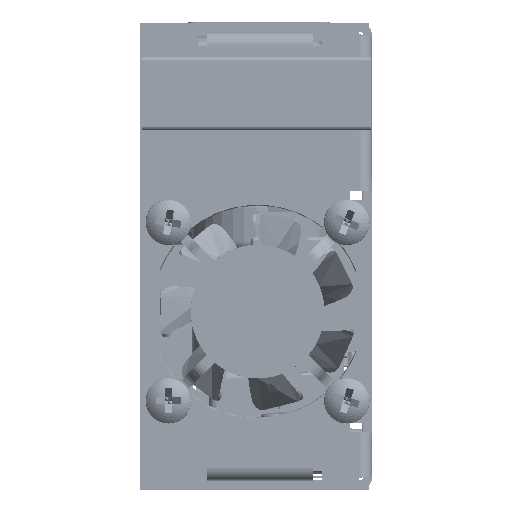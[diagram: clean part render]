
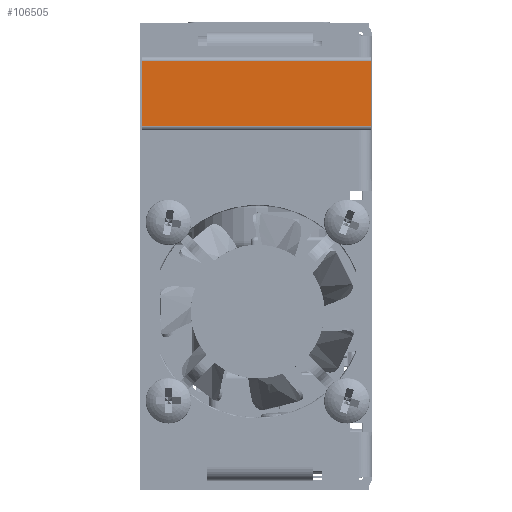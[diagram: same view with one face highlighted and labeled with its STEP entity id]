
A CAD part, left-side view. The second image highlights one B-rep face of the part: STEP entity #106505.
In plain terms, the highlighted planar face has unit normal (-1, 0, 0) as drawn and (0, 1, 0) by its records, which use the part's own axes.
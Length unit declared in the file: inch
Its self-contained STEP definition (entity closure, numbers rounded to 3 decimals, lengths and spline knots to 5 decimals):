
#24382 = EDGE_CURVE ( 'NONE', #153563, #152587, #189720, .T. ) ;
#35723 = EDGE_CURVE ( 'NONE', #153563, #179695, #111492, .T. ) ;
#39696 = CARTESIAN_POINT ( 'NONE',  ( -0.22854, 0.6811, -1.35976 ) ) ;
#47830 = VERTEX_POINT ( 'NONE', #152879 ) ;
#47842 = VECTOR ( 'NONE', #148438, 39.37008 ) ;
#55157 = ORIENTED_EDGE ( 'NONE', *, *, #24382, .F. ) ;
#56692 = FACE_OUTER_BOUND ( 'NONE', #79559, .T. ) ;
#68525 = CARTESIAN_POINT ( 'NONE',  ( -0.22854, 0.6811, -0.80906 ) ) ;
#74175 = VECTOR ( 'NONE', #146876, 39.37008 ) ;
#79559 = EDGE_LOOP ( 'NONE', ( #55157, #161596, #189450, #97637 ) ) ;
#86316 = CARTESIAN_POINT ( 'NONE',  ( -0.22854, 0.6811, -1.35976 ) ) ;
#97637 = ORIENTED_EDGE ( 'NONE', *, *, #127302, .F. ) ;
#101435 = CARTESIAN_POINT ( 'NONE',  ( -0.22854, 0.6811, 0.80906 ) ) ;
#101690 = DIRECTION ( 'NONE',  ( 0., 0., 1. ) ) ;
#106505 = ADVANCED_FACE ( 'NONE', ( #56692 ), #116416, .T. ) ;
#110669 = EDGE_CURVE ( 'NONE', #47830, #179695, #138745, .T. ) ;
#111492 = LINE ( 'NONE', #39696, #152242 ) ;
#115832 = DIRECTION ( 'NONE',  ( 0., 0., 1. ) ) ;
#116416 = PLANE ( 'NONE',  #139260 ) ;
#117009 = CARTESIAN_POINT ( 'NONE',  ( 0.22854, 0.6811, -1.35976 ) ) ;
#119359 = CARTESIAN_POINT ( 'NONE',  ( 0.22854, 0.6811, -0.80906 ) ) ;
#127302 = EDGE_CURVE ( 'NONE', #152587, #47830, #169837, .T. ) ;
#130064 = CARTESIAN_POINT ( 'NONE',  ( -0.22854, 0.6811, 0.80906 ) ) ;
#138745 = LINE ( 'NONE', #101435, #74175 ) ;
#139260 = AXIS2_PLACEMENT_3D ( 'NONE', #86316, #193437, #101690 ) ;
#146876 = DIRECTION ( 'NONE',  ( -1., 0., 0. ) ) ;
#148438 = DIRECTION ( 'NONE',  ( 0., 0., 1. ) ) ;
#152242 = VECTOR ( 'NONE', #115832, 39.37008 ) ;
#152587 = VERTEX_POINT ( 'NONE', #119359 ) ;
#152879 = CARTESIAN_POINT ( 'NONE',  ( 0.22854, 0.6811, 0.80906 ) ) ;
#153563 = VERTEX_POINT ( 'NONE', #177647 ) ;
#160077 = DIRECTION ( 'NONE',  ( 1., 0., 0. ) ) ;
#161596 = ORIENTED_EDGE ( 'NONE', *, *, #35723, .T. ) ;
#169837 = LINE ( 'NONE', #117009, #47842 ) ;
#177647 = CARTESIAN_POINT ( 'NONE',  ( -0.22854, 0.6811, -0.80906 ) ) ;
#179695 = VERTEX_POINT ( 'NONE', #130064 ) ;
#184881 = VECTOR ( 'NONE', #160077, 39.37008 ) ;
#189450 = ORIENTED_EDGE ( 'NONE', *, *, #110669, .F. ) ;
#189720 = LINE ( 'NONE', #68525, #184881 ) ;
#193437 = DIRECTION ( 'NONE',  ( 0., 1., 0. ) ) ;
